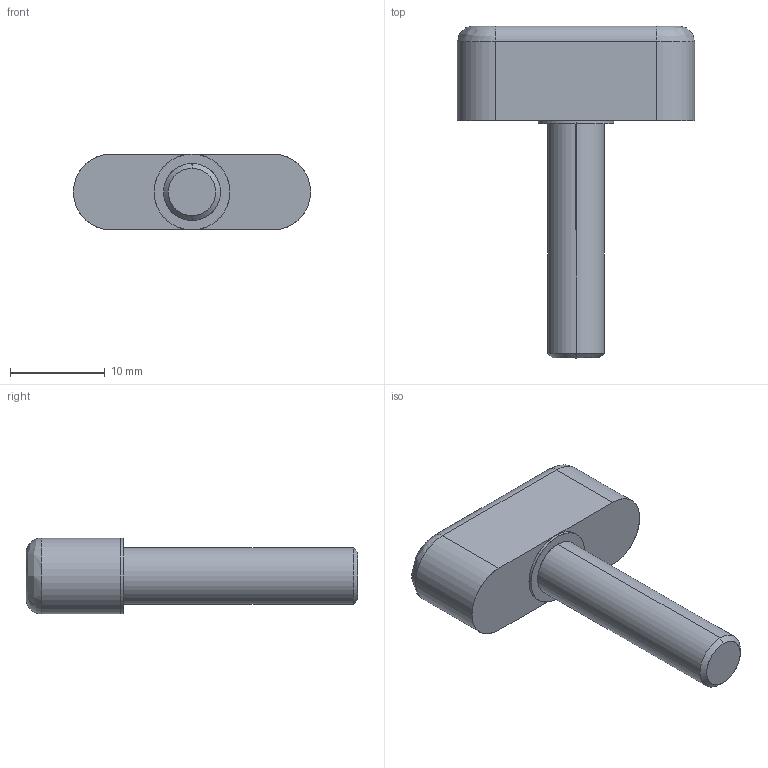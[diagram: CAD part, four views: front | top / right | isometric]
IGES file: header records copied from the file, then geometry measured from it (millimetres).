
Start section: SolidWorks IGES file using analytic representation for surfaces
Global section: file name: C:\Documents and Settings\IanO.IANOHOME\My Documents\Wix and Auto CAD Work\CAD Models\Parametric Models\Wix Models\3738\3738_IGES\3738.W063.igs; native system: SolidWorks 2009; preprocessor: SolidWorks 2009; author: IanO; date: 091209.215704; units: millimetre
Bounding box: 25 x 35 x 8 mm (x, y, z)
Surface area: 1389.4 mm2 (no closed solid volume)
Topology: 0 solids, 0 shells, 19 faces, 256 edges, 256 vertices
Faces by surface type: revolution 10, bspline 9
